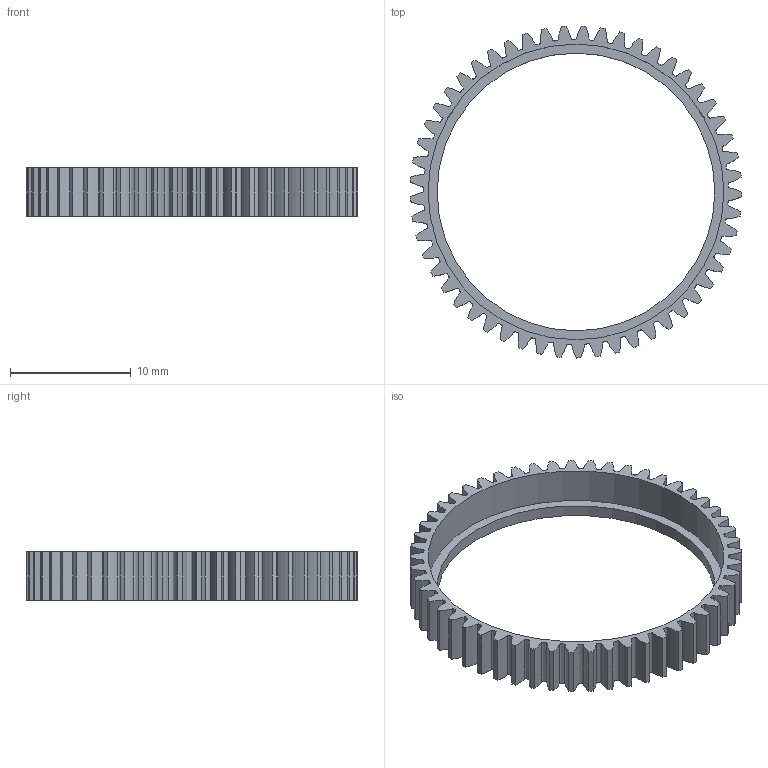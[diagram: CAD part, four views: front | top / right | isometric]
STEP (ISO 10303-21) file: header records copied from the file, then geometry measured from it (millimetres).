
FILE_DESCRIPTION(/* description */ (''),/* implementation_level */ '2;1');
FILE_NAME(/* name */ '大齿轮.stp',/* time_stamp */ '2026-05-25T15:17:34+08:00',/* author */ (''),/* organization */ (''),/* preprocessor_version */ 'ST-DEVELOPER v20',/* originating_system */ 'SIEMENS PLM Software NX2412.1700',/* authorisation */ '');
FILE_SCHEMA (('AUTOMOTIVE_DESIGN { 1 0 10303 214 3 1 1 1 }'));
Length unit declared in the file: millimetre
Products named in the file (1): 大齿轮
Bounding box: 27.49 x 27.49 x 4 mm (x, y, z)
Volume: 364.2 mm3; surface area: 1228.4 mm2
Topology: 1 solids, 1 shells, 217 faces, 643 edges, 429 vertices
Faces by surface type: bspline 159, cylinder 55, plane 3
Full cylindrical faces by diameter (mm): 23 x1, 24.5 x1
Entity records: 29749 total; most frequent: CARTESIAN_POINT 25401, ORIENTED_EDGE 1280, EDGE_CURVE 640, DIRECTION 550, VERTEX_POINT 428, EDGE_LOOP 222, ADVANCED_FACE 217, FACE_OUTER_BOUND 212
